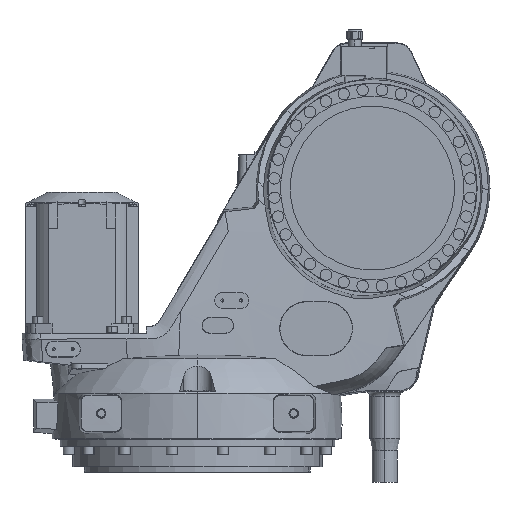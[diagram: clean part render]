
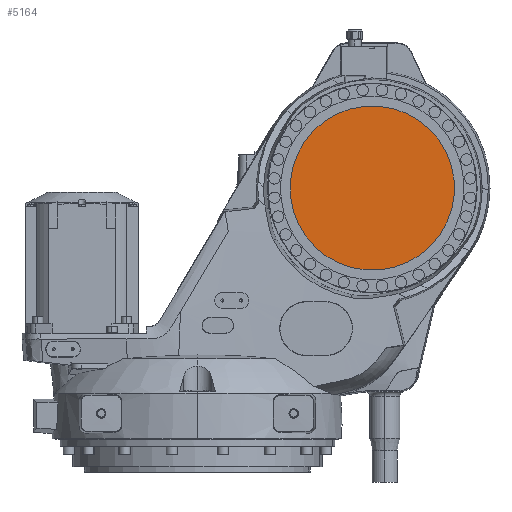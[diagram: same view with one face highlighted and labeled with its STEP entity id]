
A CAD part, front view. The second image highlights one B-rep face of the part: STEP entity #5164.
In plain terms, the highlighted planar face has unit normal (0, -1, 0).
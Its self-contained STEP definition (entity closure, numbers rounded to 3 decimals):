
#1642 = CARTESIAN_POINT ( 'NONE',  ( 410.867, -109., 682.889 ) ) ;
#4488 = AXIS2_PLACEMENT_3D ( 'NONE', #40685, #7322, #26497 ) ;
#5164 = ADVANCED_FACE ( 'NONE', ( #27622 ), #36564, .F. ) ;
#7322 = DIRECTION ( 'NONE',  ( 0., -1., 0. ) ) ;
#8942 = VERTEX_POINT ( 'NONE', #12198 ) ;
#11209 = AXIS2_PLACEMENT_3D ( 'NONE', #55476, #51740, #47736 ) ;
#11992 = CIRCLE ( 'NONE', #23879, 131.5 ) ;
#12198 = CARTESIAN_POINT ( 'NONE',  ( 149.133, -109., 657.111 ) ) ;
#13354 = CIRCLE ( 'NONE', #4488, 131.5 ) ;
#19662 = ORIENTED_EDGE ( 'NONE', *, *, #52203, .T. ) ;
#23879 = AXIS2_PLACEMENT_3D ( 'NONE', #54965, #49692, #54346 ) ;
#26497 = DIRECTION ( 'NONE',  ( 0.995, 0., 0.098 ) ) ;
#27622 = FACE_OUTER_BOUND ( 'NONE', #58460, .T. ) ;
#36564 = PLANE ( 'NONE',  #11209 ) ;
#38878 = ORIENTED_EDGE ( 'NONE', *, *, #60719, .T. ) ;
#40685 = CARTESIAN_POINT ( 'NONE',  ( 280., -109., 670. ) ) ;
#47736 = DIRECTION ( 'NONE',  ( -0.995, 0., -0.098 ) ) ;
#49692 = DIRECTION ( 'NONE',  ( 0., -1., 0. ) ) ;
#51740 = DIRECTION ( 'NONE',  ( 0., 1., 0. ) ) ;
#52203 = EDGE_CURVE ( 'NONE', #8942, #58277, #11992, .T. ) ;
#54346 = DIRECTION ( 'NONE',  ( 0.995, 0., 0.098 ) ) ;
#54965 = CARTESIAN_POINT ( 'NONE',  ( 280., -109., 670. ) ) ;
#55476 = CARTESIAN_POINT ( 'NONE',  ( 267.111, -109., 800.867 ) ) ;
#58277 = VERTEX_POINT ( 'NONE', #1642 ) ;
#58460 = EDGE_LOOP ( 'NONE', ( #38878, #19662 ) ) ;
#60719 = EDGE_CURVE ( 'NONE', #58277, #8942, #13354, .T. ) ;
